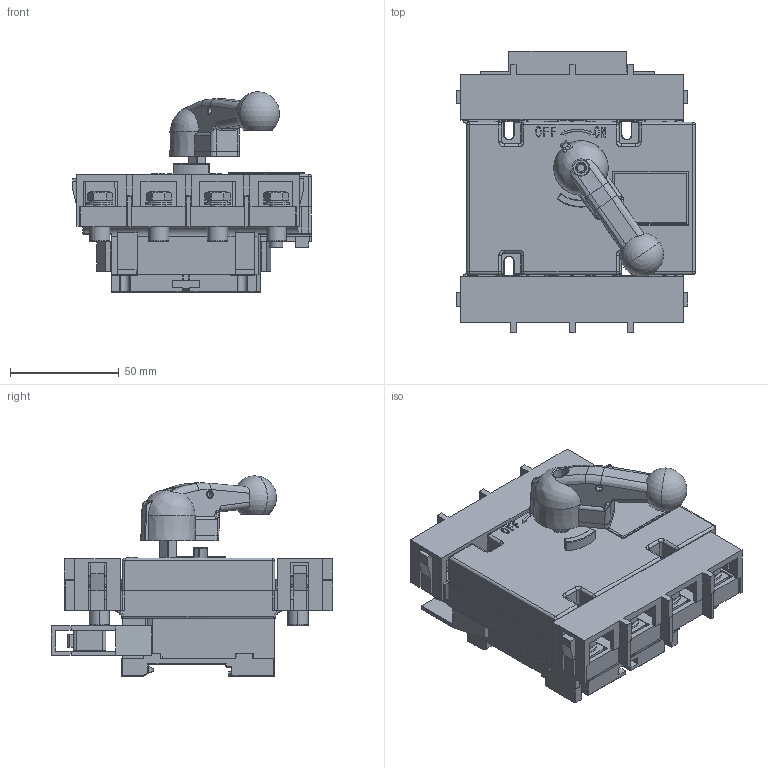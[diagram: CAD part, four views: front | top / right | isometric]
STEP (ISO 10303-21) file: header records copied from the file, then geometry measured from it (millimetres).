
FILE_DESCRIPTION((''),'2;1');
FILE_NAME('NH40-16_100-41_4P_202208_-__ASM','2023-03-11T',('zhuanghy'),(''),'CREO PARAMETRIC BY PTC INC, 2018070','CREO PARAMETRIC BY PTC INC, 2018070','');
FILE_SCHEMA(('AUTOMOTIVE_DESIGN { 1 0 10303 214 1 1 1 1 }'));
Products named in the file (14): PRT0062_1_2; PRT0063_1; ASM0008_ASM_ASM_ASM_1_ASM; PRT0064_1; PRT0065_1; PRT0066_1; ASM0007_ASM_ASM_ASM_1_ASM; ASM0006_ASM_ASM_ASM_1_ASM; NH40-16-100-4_ASM_ASM_1_ASM; NH40-16_100-4_4P_202010_ASM_1_ASM; JIE-XIAN-LUODING; DUANZI-ZHAO; PRT0001; NH40-16_100-41_4P_202208_-__ASM
Assembly tree (28 placements, depth 7):
  NH40-16_100-41_4P_202208_-__ASM
    NH40-16_100-4_4P_202010_ASM_1_ASM
      NH40-16-100-4_ASM_ASM_1_ASM
        ASM0006_ASM_ASM_ASM_1_ASM
          ASM0007_ASM_ASM_ASM_1_ASM
            ASM0008_ASM_ASM_ASM_1_ASM
              PRT0062_1_2
              PRT0063_1
            PRT0064_1
            PRT0065_1  x8
            PRT0066_1
    JIE-XIAN-LUODING  x8
    DUANZI-ZHAO  x2
    PRT0001
Bounding box: 109.6 x 129 x 91.96 mm (x, y, z)
Volume: 377467.2 mm3; surface area: 164109.3 mm2
Topology: 23 solids, 25 shells, 2719 faces, 7424 edges, 4741 vertices
Faces by surface type: plane 1808, cylinder 640, torus 95, sphere 80, bspline 61, cone 29, extrusion 6
Entity records: 74098 total; most frequent: CARTESIAN_POINT 17036, ORIENTED_EDGE 11416, DIRECTION 10736, EDGE_CURVE 5708, VECTOR 4152, LINE 4146, VERTEX_POINT 3657, AXIS2_PLACEMENT_3D 3292
